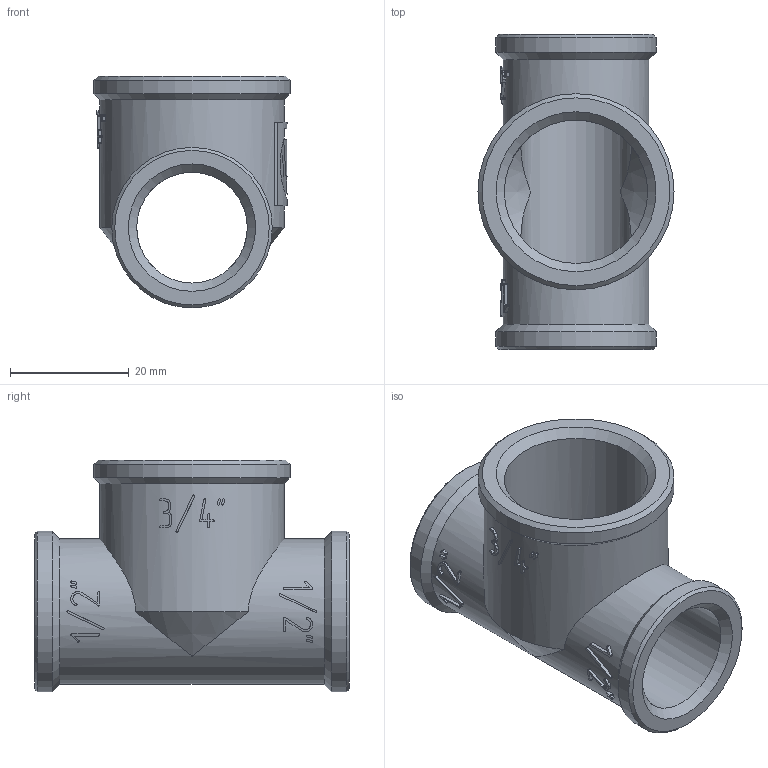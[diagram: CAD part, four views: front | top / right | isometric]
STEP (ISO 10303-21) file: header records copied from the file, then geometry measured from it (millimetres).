
FILE_DESCRIPTION(('STEP AP203'), '1');
FILE_NAME('ÂÐ.752243.013 - VTr.750.RN.040504 - Ôèò. ðåçüá. òðîé', '2024-07-15T09:58:46', ('Boss'), (''), 'C3D Converter', 'C3D Toolkit', '');
FILE_SCHEMA(('CONFIG_CONTROL_DESIGN'));
Length unit declared in the file: millimetre
Products named in the file (1): ВР.752243.013
Bounding box: 33 x 53 x 39 mm (x, y, z)
Volume: 15507.6 mm3; surface area: 10404.8 mm2
Topology: 1 solids, 1 shells, 322 faces, 910 edges, 604 vertices
Faces by surface type: extrusion 185, plane 98, cylinder 26, cone 13
Full cylindrical faces by diameter (mm): 18.632 x1, 24.118 x1, 24.5 x1, 27 x2, 31 x1, 33 x1
Entity records: 15179 total; most frequent: CARTESIAN_POINT 7952, ORIENTED_EDGE 1772, DIRECTION 910, EDGE_CURVE 886, VERTEX_POINT 601, B_SPLINE_CURVE_WITH_KNOTS 568, VECTOR 502, EDGE_LOOP 361
